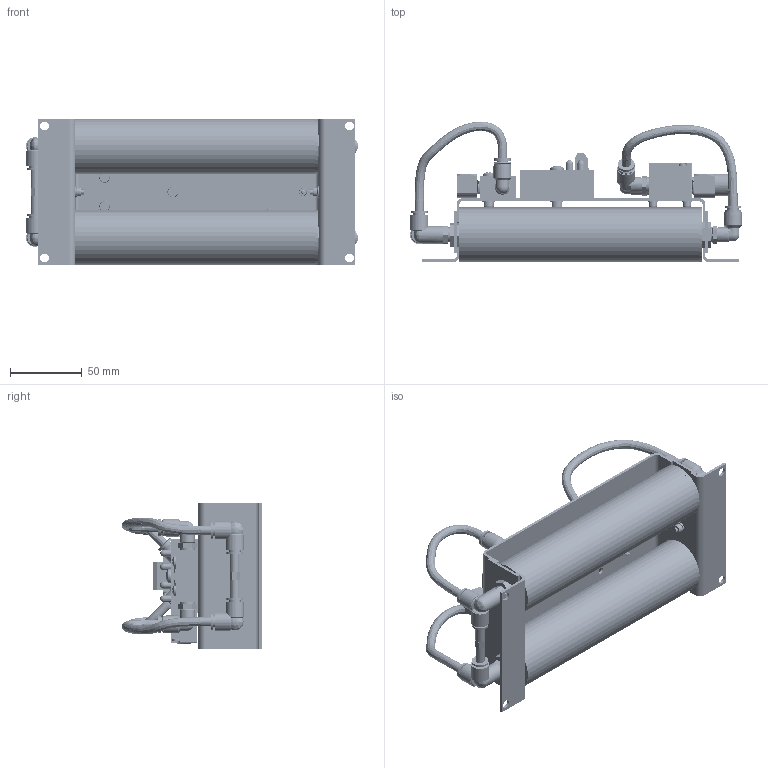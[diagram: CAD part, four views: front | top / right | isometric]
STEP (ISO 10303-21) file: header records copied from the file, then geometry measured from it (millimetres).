
FILE_DESCRIPTION (( 'STEP AP214' ), '1' );
FILE_NAME ('MDH3-XHE.STEP', '2020-09-16T23:01:57', ( '' ), ( '' ), 'SwSTEP 2.0', 'SolidWorks 2017', '' );
FILE_SCHEMA (( 'AUTOMOTIVE_DESIGN' ));
Length unit declared in the file: inch
Products named in the file (1): MDH3-XHE
Bounding box: 230.9 x 97.68 x 101.6 mm (x, y, z)
Volume: 546971.3 mm3; surface area: 296837.4 mm2
Topology: 63 solids, 63 shells, 5965 faces, 15423 edges, 10078 vertices
Faces by surface type: plane 2982, cylinder 1984, cone 440, bspline 418, torus 84, sphere 57
Entity records: 306512 total; most frequent: CARTESIAN_POINT 88562, ORIENTED_EDGE 30774, DIRECTION 26777, EDGE_CURVE 15387, VERTEX_POINT 10065, VECTOR 9021, LINE 9021, AXIS2_PLACEMENT_3D 8878
